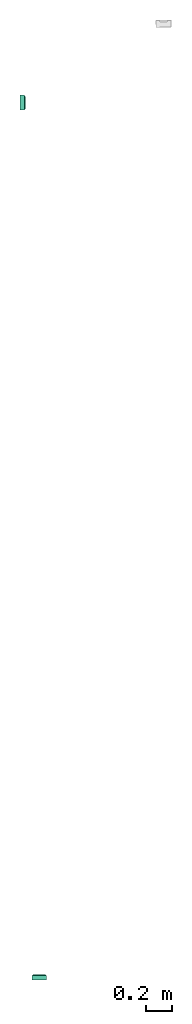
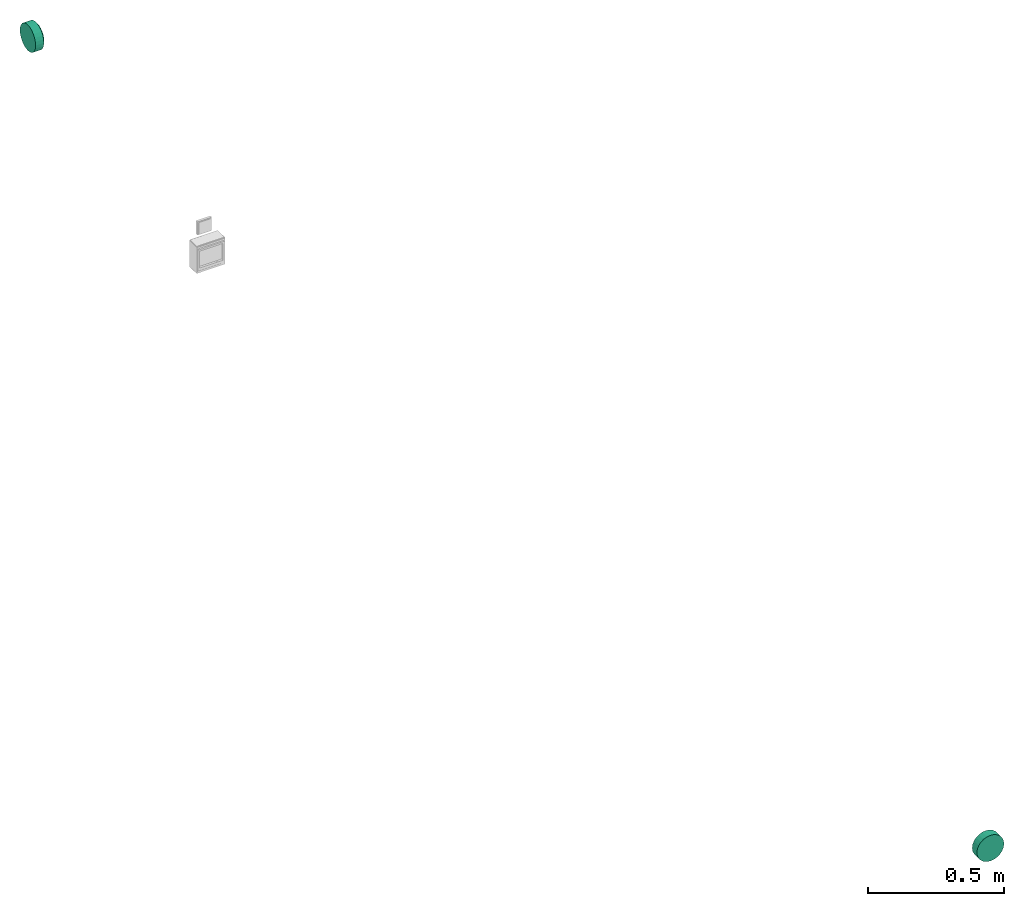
# One storey, part 1 of 2: 2 flow fittings.
"""IFC2X3 building model written with IfcOpenShell, lengths in millimetres."""

from ifc_helpers import new_model, entity, si_unit, converted_unit, derived_unit, direction, frame, origin_with_axes, place, context, subcontext, project, spatial, open_shell, surface_model, source, transform, mapped, type_object, element, save


model = new_model("IFC2X3")

# Units and contexts
model_context = context("Model", 3, precision=0.01, world=frame((0.0, 4.29681676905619e-09, 0.0)), true_north=direction((4.01073788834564e-13, 1.0)))
plan_context = context("Plan", 3, precision=0.01, world=frame((0.0, 4.29681676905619e-09, 0.0)), true_north=direction((4.01073788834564e-13, 1.0)))
body_context = subcontext(model_context, "Body", "Model", "MODEL_VIEW")
ifc_project = project(units=[converted_unit("PLANEANGLEUNIT", "DEGREE", entity("IfcPositiveLengthMeasure", 0.0174532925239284), si_unit("PLANEANGLEUNIT", "RADIAN"), dimensions=[0, 0, 0, 0, 0, 0, 0]), si_unit("AREAUNIT", "SQUARE_METRE"), si_unit("LENGTHUNIT", "METRE", prefix="MILLI"), si_unit("MASSUNIT", "GRAM", prefix="KILO"), si_unit("POWERUNIT", "WATT"), si_unit("PRESSUREUNIT", "PASCAL", prefix="KILO"), si_unit("FORCEUNIT", "NEWTON", prefix="KILO"), si_unit("ELECTRICVOLTAGEUNIT", "VOLT"), si_unit("ELECTRICCURRENTUNIT", "AMPERE"), si_unit("THERMODYNAMICTEMPERATUREUNIT", "DEGREE_CELSIUS"), si_unit("TIMEUNIT", "SECOND"), si_unit("VOLUMEUNIT", "CUBIC_METRE"), derived_unit("LINEARVELOCITYUNIT", [(si_unit("LENGTHUNIT", "METRE"), 1), (si_unit("TIMEUNIT", "SECOND"), -1)]), derived_unit("VOLUMETRICFLOWRATEUNIT", [(si_unit("VOLUMEUNIT", "CUBIC_METRE"), 1), (si_unit("TIMEUNIT", "SECOND"), -1)]), derived_unit("THERMALTRANSMITTANCEUNIT", [(si_unit("POWERUNIT", "WATT"), 1), (si_unit("THERMODYNAMICTEMPERATUREUNIT", "KELVIN"), -1), (si_unit("AREAUNIT", "SQUARE_METRE"), -1)]), derived_unit("SOUNDPRESSUREUNIT", [(si_unit("PRESSUREUNIT", "PASCAL"), 1)])], contexts=[model_context, plan_context])

# Site, building, storey
site_placement = place(None, frame((0.0, -4.29681676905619e-09, 0.0), z_axis=(0.0, 0.0, 1.0), x_axis=(1.0, 0.0, 0.0)))
site = spatial("IfcSite", under=ifc_project, at=site_placement, Name="ENGM", CompositionType="ELEMENT")
building_placement = place(site_placement, frame((0.0, 4.29681676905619e-09, 0.0), z_axis=(0.0, 0.0, 1.0), x_axis=(1.0, 0.0, 0.0)))
building = spatial("IfcBuilding", under=site, at=building_placement, Name="TS", CompositionType="ELEMENT")
storey_placement = place(building_placement, frame((0.0, 0.0, 204000.0), z_axis=(0.0, 0.0, 1.0), x_axis=(1.0, 0.0, 0.0)))
storey = spatial("IfcBuildingStorey", under=building, at=storey_placement, Name="Nivå D", CompositionType="ELEMENT", Elevation=204000.0)

# Flow fittings
junction_box_type = type_object("IfcJunctionBoxType", Name="Grensesnittboks", PredefinedType="NOTDEFINED")
shared_shape = source(origin_with_axes(), body_context, "Body", "SurfaceModel", [
    surface_model("IfcShellBasedSurfaceModel", [(-42.32699, 41.1, 24.4375), (-48.875, 41.1, 0.0), (-47.20962, 41.1, 12.64978), (-24.4375, 41.1, 42.32699), (-34.55984, 41.1, 34.55984), (-12.64978, 41.1, 47.20962), (0.0, 41.1, 48.875), (-24.4375, 41.1, -42.32699), (-42.32699, 41.1, -24.4375), (-47.20962, 41.1, -12.64978), (-34.55984, 41.1, -34.55984), (42.32699, 41.1, 24.4375), (-12.64978, 41.1, -47.20962), (34.55984, 41.1, 34.55984), (12.64978, 41.1, 47.20962), (24.4375, 41.1, 42.32699), (47.20962, 41.1, 12.64978), (48.875, 41.1, 0.0), (34.55984, 41.1, -34.55984), (12.64978, 41.1, -47.20962), (24.4375, 41.1, -42.32699), (0.0, 41.1, -48.875), (42.32699, 41.1, -24.4375), (47.20962, 41.1, -12.64978), (48.875, 40.9, 0.0), (47.20962, 40.9, 12.64978), (42.32699, 40.9, 24.4375), (-12.64978, 40.9, -47.20962), (34.55984, 40.9, 34.55984), (24.4375, 40.9, 42.32699), (12.64978, 40.9, 47.20962), (0.0, 40.9, -48.875), (34.55984, 40.9, -34.55984), (42.32699, 40.9, -24.4375), (47.20962, 40.9, -12.64978), (12.64978, 40.9, -47.20962), (24.4375, 40.9, -42.32699), (0.0, 40.9, 48.875), (-12.64978, 40.9, 47.20962), (-34.55984, 40.9, 34.55984), (-24.4375, 40.9, 42.32699), (-42.32699, 40.9, 24.4375), (-47.20962, 40.9, 12.64978), (-24.4375, 40.9, -42.32699), (-42.32699, 40.9, -24.4375), (-34.55984, 40.9, -34.55984), (-48.875, 40.9, 0.0), (-47.20962, 40.9, -12.64978), (47.6496, 41.0, -10.87571), (38.21201, 41.0, -30.47307), (21.20607, 41.0, -44.03485), (0.0, 41.0, -48.875), (47.6496, 41.0, 10.87571), (38.21201, 41.0, 30.47307), (0.0, 41.0, 48.875), (21.20607, 41.0, 44.03485), (-21.20607, 41.0, -44.03485), (-38.21201, 41.0, -30.47307), (-47.6496, 41.0, -10.87571), (-21.20607, 41.0, 44.03485), (-47.6496, 41.0, 10.87571), (-38.21201, 41.0, 30.47307), (-24.94832, 34.85, -51.80571), (56.05836, 34.85, 12.79495), (44.95531, 34.85, 35.85066), (24.94832, 34.85, -51.80571), (44.95531, 34.85, -35.85066), (56.05836, 34.85, -12.79495), (0.0, 34.85, -57.5), (24.94832, 34.85, 51.80571), (-56.05836, 34.85, -12.79495), (0.0, 34.85, 57.5), (-24.94832, 34.85, 51.80571), (-56.05836, 34.85, 12.79495), (-44.95531, 34.85, 35.85066), (-44.95531, 34.85, -35.85066), (-14.13908, 41.0, 45.64785), (-12.47416, 34.85, 54.65286), (-50.50683, 34.85, 24.32281), (-42.93081, 41.0, 20.67439), (-56.05836, 34.85, 0.0), (-34.95181, 34.85, 43.82819), (-29.70904, 41.0, 37.25396), (-42.93081, 41.0, -20.67439), (-50.50683, 34.85, -24.32281), (-47.6496, 41.0, 0.0), (-10.60303, 41.0, -46.45493), (-34.95181, 34.85, -43.82819), (-29.70904, 41.0, -37.25396), (-16.63421, 34.85, -53.70335), (14.13908, 41.0, -45.64785), (12.47416, 34.85, -54.65286), (50.50683, 34.85, -24.32281), (42.93081, 41.0, -20.67439), (56.05836, 34.85, 0.0), (34.95181, 34.85, -43.82819), (29.70904, 41.0, -37.25396), (42.93081, 41.0, 20.67439), (50.50683, 34.85, 24.32281), (47.6496, 41.0, 0.0), (10.60303, 41.0, 46.45493), (34.95181, 34.85, 43.82819), (29.70904, 41.0, 37.25396), (16.63421, 34.85, 53.70335), (-49.79646, 34.85, 28.75), (-57.5, 34.85, 0.0), (-55.54074, 34.85, 14.88209), (-28.75, 34.85, 49.79646), (-40.65864, 34.85, 40.65864), (-49.79646, 34.85, -28.75), (-14.88209, 34.85, 55.54074), (40.65864, 34.85, 40.65864), (-55.54074, 34.85, -14.88209), (-28.75, 34.85, -49.79646), (-40.65864, 34.85, -40.65864), (-14.88209, 34.85, -55.54074), (57.5, 34.85, 0.0), (14.88209, 34.85, 55.54074), (28.75, 34.85, 49.79646), (55.54074, 34.85, 14.88209), (49.79646, 34.85, 28.75), (28.75, 34.85, -49.79646), (14.88209, 34.85, -55.54074), (40.65864, 34.85, -40.65864), (55.54074, 34.85, -14.88209), (49.79646, 34.85, -28.75), (40.65864, 0.0, 40.65864), (57.5, 0.0, 0.0), (55.54074, 0.0, 14.88209), (49.79646, 0.0, 28.75), (28.75, 0.0, 49.79646), (14.88209, 0.0, 55.54074), (55.54074, 0.0, -14.88209), (40.65864, 0.0, -40.65864), (49.79646, 0.0, -28.75), (0.0, 0.0, -57.5), (28.75, 0.0, -49.79646), (14.88209, 0.0, -55.54074), (-28.75, 0.0, 49.79646), (-14.88209, 0.0, 55.54074), (-14.88209, 0.0, -55.54074), (-49.79646, 0.0, 28.75), (-57.5, 0.0, 0.0), (-40.65864, 0.0, 40.65864), (-55.54074, 0.0, 14.88209), (-28.75, 0.0, -49.79646), (-49.79646, 0.0, -28.75), (-40.65864, 0.0, -40.65864), (-55.54074, 0.0, -14.88209), (0.0, 0.0, 57.5)], [open_shell([[[0, 1, 2]], [[3, 0, 4]], [[5, 6, 0]], [[5, 0, 3]], [[7, 0, 6]], [[1, 8, 9]], [[1, 0, 8]], [[8, 7, 10]], [[0, 7, 8]], [[7, 11, 12]], [[7, 6, 13]], [[14, 15, 13]], [[13, 11, 7]], [[11, 16, 17]], [[17, 12, 11]], [[12, 17, 18]], [[19, 18, 20]], [[18, 19, 21]], [[18, 21, 12]], [[17, 22, 18]], [[17, 23, 22]], [[13, 6, 14]], [[24, 25, 26]], [[27, 24, 26]], [[28, 29, 30]], [[27, 26, 28]], [[31, 24, 27]], [[24, 32, 33]], [[33, 34, 24]], [[32, 35, 36]], [[35, 32, 31]], [[31, 32, 24]], [[37, 28, 30]], [[38, 27, 37]], [[39, 38, 40]], [[38, 41, 27]], [[41, 38, 39]], [[42, 27, 41]], [[43, 44, 45]], [[44, 43, 27]], [[44, 46, 47]], [[46, 44, 27]], [[27, 42, 46]], [[37, 27, 28]], [[27, 12, 31]], [[43, 7, 27]], [[8, 45, 44]], [[43, 45, 10]], [[9, 44, 47]], [[27, 7, 12]], [[12, 21, 31]], [[9, 8, 44]], [[10, 45, 8]], [[10, 7, 43]], [[1, 9, 47]], [[47, 46, 1]], [[42, 2, 46]], [[41, 0, 42]], [[3, 39, 40]], [[41, 39, 4]], [[5, 40, 38]], [[41, 4, 0]], [[0, 2, 42]], [[6, 5, 38]], [[3, 40, 5]], [[3, 4, 39]], [[37, 6, 38]], [[46, 2, 1]], [[30, 14, 37]], [[29, 15, 30]], [[11, 28, 26]], [[29, 28, 13]], [[16, 26, 25]], [[30, 15, 14]], [[14, 6, 37]], [[16, 11, 26]], [[13, 28, 11]], [[13, 15, 29]], [[17, 16, 25]], [[25, 24, 17]], [[34, 23, 24]], [[33, 22, 34]], [[20, 32, 36]], [[33, 32, 18]], [[19, 36, 35]], [[33, 18, 22]], [[22, 23, 34]], [[21, 19, 35]], [[20, 36, 19]], [[20, 18, 32]], [[31, 21, 35]], [[24, 23, 17]], [[48, 49, 50]], [[48, 50, 51]], [[52, 48, 53]], [[54, 55, 53]], [[54, 53, 48]], [[48, 51, 56]], [[54, 56, 57]], [[54, 57, 58]], [[59, 54, 60]], [[60, 61, 59]], [[54, 58, 60]], [[56, 54, 48]], [[62, 63, 64]], [[65, 63, 62]], [[66, 67, 65]], [[65, 67, 63]], [[65, 62, 68]], [[69, 62, 64]], [[70, 71, 72]], [[73, 72, 74]], [[62, 71, 75]], [[75, 71, 70]], [[72, 73, 70]], [[71, 62, 69]], [[59, 72, 76]], [[76, 72, 77]], [[78, 79, 60]], [[54, 76, 77]], [[58, 70, 80]], [[61, 81, 82]], [[72, 82, 81]], [[77, 71, 54]], [[70, 83, 84]], [[82, 72, 59]], [[61, 79, 74]], [[57, 75, 84]], [[80, 85, 58]], [[73, 85, 80]], [[84, 83, 57]], [[60, 73, 78]], [[86, 51, 68]], [[74, 79, 78]], [[61, 74, 81]], [[87, 88, 56]], [[89, 56, 86]], [[70, 58, 83]], [[75, 88, 87]], [[75, 57, 88]], [[62, 56, 89]], [[56, 62, 87]], [[60, 85, 73]], [[68, 89, 86]], [[50, 65, 90]], [[90, 65, 91]], [[92, 93, 48]], [[51, 90, 91]], [[52, 63, 94]], [[49, 95, 96]], [[65, 96, 95]], [[91, 68, 51]], [[63, 97, 98]], [[96, 65, 50]], [[49, 93, 66]], [[53, 64, 98]], [[94, 99, 52]], [[67, 99, 94]], [[98, 97, 53]], [[48, 67, 92]], [[100, 54, 71]], [[66, 93, 92]], [[49, 66, 95]], [[101, 102, 55]], [[103, 55, 100]], [[63, 52, 97]], [[64, 102, 101]], [[64, 53, 102]], [[69, 55, 103]], [[55, 69, 101]], [[48, 99, 67]], [[71, 103, 100]], [[104, 105, 106]], [[107, 104, 108]], [[109, 107, 110]], [[107, 109, 104]], [[110, 111, 109]], [[105, 109, 112]], [[105, 104, 109]], [[109, 113, 114]], [[113, 109, 115]], [[109, 116, 115]], [[117, 110, 71]], [[117, 118, 111]], [[111, 116, 109]], [[119, 116, 111]], [[119, 111, 120]], [[115, 116, 68]], [[68, 121, 122]], [[121, 68, 123]], [[123, 124, 125]], [[124, 123, 68]], [[68, 116, 124]], [[111, 110, 117]], [[126, 127, 128]], [[126, 128, 129]], [[126, 130, 131]], [[127, 126, 132]], [[132, 126, 131]], [[132, 133, 134]], [[133, 132, 135]], [[136, 135, 137]], [[135, 136, 133]], [[132, 131, 135]], [[131, 138, 135]], [[131, 139, 138]], [[140, 135, 138]], [[138, 141, 142]], [[141, 138, 143]], [[141, 144, 142]], [[145, 146, 147]], [[146, 145, 140]], [[146, 142, 148]], [[146, 140, 138]], [[138, 142, 146]], [[139, 131, 149]], [[140, 115, 135]], [[145, 113, 140]], [[109, 147, 146]], [[145, 147, 114]], [[112, 146, 148]], [[140, 113, 115]], [[115, 68, 135]], [[112, 109, 146]], [[114, 147, 109]], [[114, 113, 145]], [[105, 112, 148]], [[148, 142, 105]], [[144, 106, 142]], [[141, 104, 144]], [[107, 143, 138]], [[141, 143, 108]], [[110, 138, 139]], [[141, 108, 104]], [[104, 106, 144]], [[149, 71, 110]], [[107, 138, 110]], [[107, 108, 143]], [[139, 149, 110]], [[142, 106, 105]], [[131, 117, 149]], [[130, 118, 131]], [[120, 126, 129]], [[130, 126, 111]], [[119, 129, 128]], [[131, 118, 117]], [[117, 71, 149]], [[119, 120, 129]], [[111, 126, 120]], [[111, 118, 130]], [[116, 119, 128]], [[128, 127, 116]], [[127, 132, 124]], [[121, 136, 137]], [[136, 123, 133]], [[122, 137, 135]], [[124, 134, 125]], [[134, 124, 132]], [[125, 134, 123]], [[134, 133, 123]], [[136, 121, 123]], [[122, 121, 137]], [[135, 68, 122]], [[127, 124, 116]]])]),
])
for number, where, z_axis, x_axis in (
    (1, (595144.68165, 404705.6258, 2500.0), (0.0, 0.0, 1.0), (0.0, -1.0, 0.0)),
    (2, (595294.37757, 397885.73546, 2945.35391999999), (0.0, 0.0, 1.0), (1.0, 0.0, 0.0)),
):
    element("IfcFlowFitting", number, at=place(storey_placement, frame(where, z_axis=z_axis, x_axis=x_axis)), inside=storey, type_object=junction_box_type, Name="Grensesnittboks", context=body_context, shape_type="MappedRepresentation", body=[
        mapped(shared_shape, transform((0.0, 0.0, 0.0), scale=1.0)),
    ])

save(model, "model.ifc")
